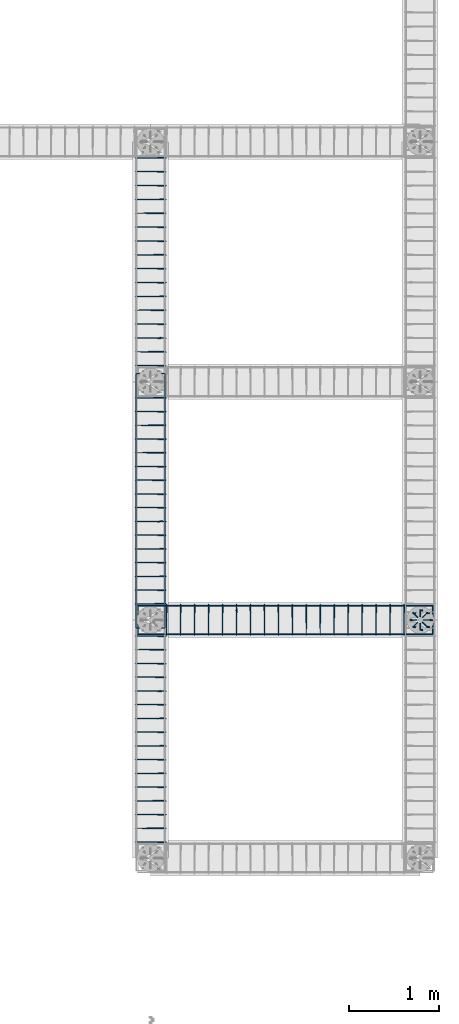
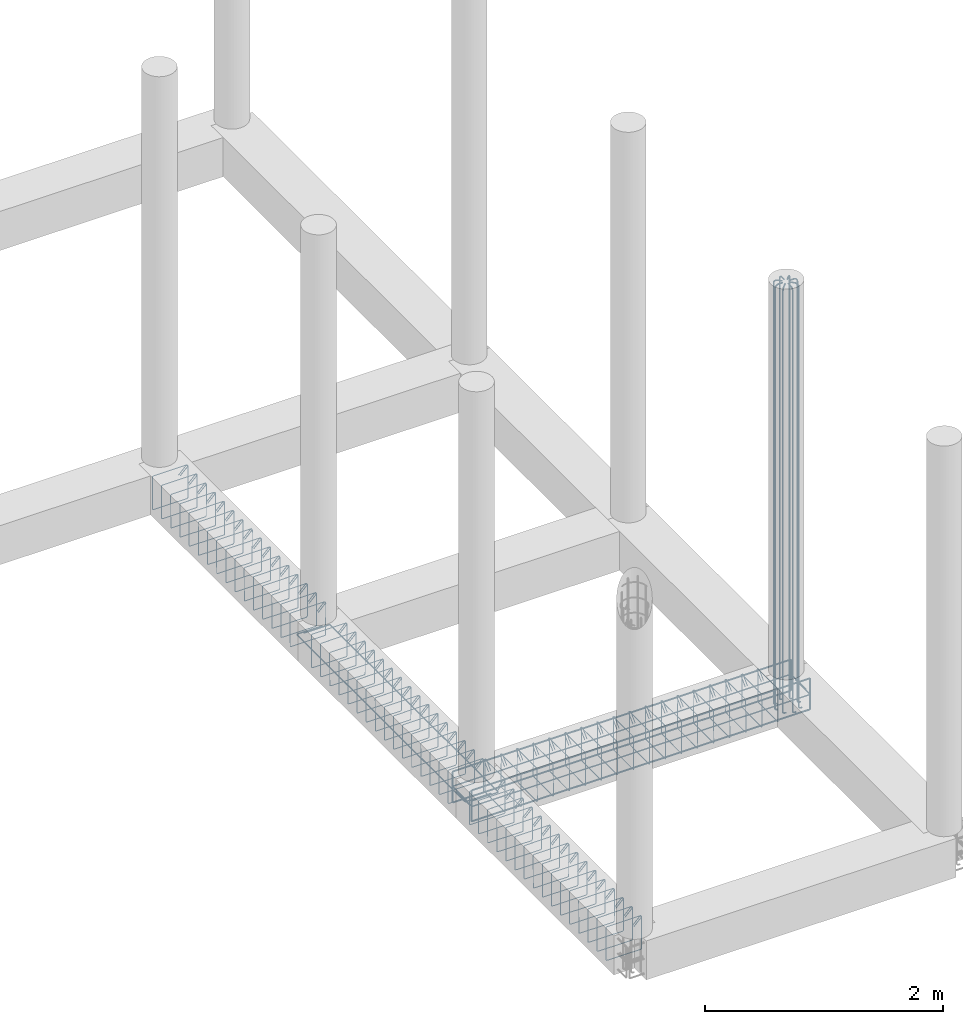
# One storey, part 6 of 20: 8 reinforcing bars.
"""IFC4 building model written with IfcOpenShell, lengths in metres."""

from ifc_helpers import new_model, entity, si_unit, origin_with_axes, place, context, project, spatial, source, transform, mapped, element, save


model = new_model("IFC4")

# Units and contexts
model_context = context("Model", 3, precision=1e-05, world=origin_with_axes())
ifc_project = project(units=[si_unit("LENGTHUNIT", "METRE"), si_unit("AREAUNIT", "SQUARE_METRE"), si_unit("VOLUMEUNIT", "CUBIC_METRE"), si_unit("MASSUNIT", "GRAM", prefix="KILO"), si_unit("TIMEUNIT", "SECOND"), si_unit("PLANEANGLEUNIT", "RADIAN"), si_unit("SOLIDANGLEUNIT", "STERADIAN"), si_unit("THERMODYNAMICTEMPERATUREUNIT", "DEGREE_CELSIUS")], contexts=[model_context])

# Site, building, storey
placement_1 = place(None, origin_with_axes())
site = spatial("IfcSite", under=ifc_project, at=placement_1, Name="Italia", CompositionType="ELEMENT")
building = spatial("IfcBuilding", under=site, at=placement_1, Name="Tettoia", CompositionType="ELEMENT")
storey = spatial("IfcBuildingStorey", under=building, at=placement_1, Name="Storey 0", CompositionType="ELEMENT", Elevation=0.0)

# Reinforcing bars
shared_shape_1 = source(origin_with_axes(), model_context, "Body", "AdvancedSweptSolid", [
    entity("IfcSweptDiskSolid", entity("IfcIndexedPolyCurve", entity("IfcCartesianPointList3D", [[11.211, 4.64605, -0.375], [11.1971, 4.64787, -0.375], [11.191, 4.64869, -0.373761], [11.1857, 4.64938, -0.370231], [11.1822, 4.64984, -0.364948], [11.181, 4.65, -0.358717], [11.181, 4.65, 0.5725]]), [entity("IfcLineIndex", [1, 2]), entity("IfcLineIndex", [2, 3]), entity("IfcLineIndex", [3, 4]), entity("IfcLineIndex", [4, 5]), entity("IfcLineIndex", [5, 6]), entity("IfcLineIndex", [6, 7])], False), 0.007),
])
placement_2 = place(placement_1, origin_with_axes())
reinforcing_bar_1_placement = place(placement_2, origin_with_axes())
element("IfcReinforcingBar", 1, at=reinforcing_bar_1_placement, inside=storey, BarLength=0.97063, CrossSectionArea=0.00015394, NominalDiameter=0.014, context=model_context, shape_type="MappedRepresentation", body=[
    mapped(shared_shape_1, transform((0.218, 0.0, 0.0), x_axis=(1.0, 0.0, 0.0), y_axis=(0.0, 1.0, 0.0), z_axis=(0.0, 0.0, 1.0), scale=1.0)),
    mapped(shared_shape_1, transform((0.0319262, -0.077075, 0.0), x_axis=(1.0, 0.0, 0.0), y_axis=(0.0, 1.0, 0.0), z_axis=(0.0, 0.0, 1.0), scale=1.0)),
    mapped(shared_shape_1, transform((0.109, -0.109, 0.0), x_axis=(1.0, 0.0, 0.0), y_axis=(0.0, 1.0, 0.0), z_axis=(0.0, 0.0, 1.0), scale=1.0)),
    mapped(shared_shape_1, transform((0.186116, -0.0771742, 0.0), x_axis=(1.0, 0.0, 0.0), y_axis=(0.0, 1.0, 0.0), z_axis=(0.0, 0.0, 1.0), scale=1.0)),
    mapped(shared_shape_1, transform((0.0, 0.0, 0.0), x_axis=(1.0, 0.0, 0.0), y_axis=(0.0, 1.0, 0.0), z_axis=(0.0, 0.0, 1.0), scale=1.0)),
    mapped(shared_shape_1, transform((0.0319672, 0.0769753, 0.0), x_axis=(1.0, 0.0, 0.0), y_axis=(0.0, 1.0, 0.0), z_axis=(0.0, 0.0, 1.0), scale=1.0)),
    mapped(shared_shape_1, transform((0.186116, 0.0769753, 0.0), x_axis=(1.0, 0.0, 0.0), y_axis=(0.0, 1.0, 0.0), z_axis=(0.0, 0.0, 1.0), scale=1.0)),
    mapped(shared_shape_1, transform((0.108843, 0.109378, 0.0), x_axis=(1.0, -3.3766e-05, 0.0), y_axis=(3.37809e-05, 1.0, 0.0), z_axis=(0.0, 0.0, 1.0), scale=1.0)),
])
shared_shape_2 = source(origin_with_axes(), model_context, "Body", "AdvancedSweptSolid", [
    entity("IfcSweptDiskSolid", entity("IfcIndexedPolyCurve", entity("IfcCartesianPointList3D", [[11.181, 4.65, 0.0], [11.181, 4.65, 3.94], [11.1837, 4.65, 3.95339], [11.1913, 4.65, 3.96475], [11.2026, 4.65, 3.97234], [11.216, 4.65, 3.975], [11.256, 4.65, 3.975]]), [entity("IfcLineIndex", [1, 2]), entity("IfcLineIndex", [2, 3]), entity("IfcLineIndex", [3, 4]), entity("IfcLineIndex", [4, 5]), entity("IfcLineIndex", [5, 6]), entity("IfcLineIndex", [6, 7])], False), 0.007),
])
reinforcing_bar_2_placement = place(placement_2, origin_with_axes())
element("IfcReinforcingBar", 2, at=reinforcing_bar_2_placement, inside=storey, BarLength=4.03463, CrossSectionArea=0.00015394, NominalDiameter=0.014, context=model_context, shape_type="MappedRepresentation", body=[
    mapped(shared_shape_2, transform((22.5613, -0.0452399, 0.0), x_axis=(-0.707104, 0.70711, 0.0), y_axis=(-0.70711, -0.707104, 0.0), z_axis=(0.0, 0.0, 1.0), scale=1.0)),
    mapped(shared_shape_2, transform((22.58, 9.3, 0.0), x_axis=(-1.0, 0.0, 0.0), y_axis=(0.0, -1.0, 0.0), z_axis=(0.0, 0.0, 1.0), scale=1.0)),
    mapped(shared_shape_2, transform((6.59481, -6.62128, 0.0), x_axis=(0.707107, 0.707107, 0.0), y_axis=(-0.707107, 0.707107, 0.0), z_axis=(0.0, 0.0, 1.0), scale=1.0)),
    mapped(shared_shape_2, transform((15.94, -6.64, 0.0), x_axis=(0.0, 1.0, 0.0), y_axis=(-1.0, 0.0, 0.0), z_axis=(0.0, 0.0, 1.0), scale=1.0)),
    mapped(shared_shape_2, transform((0.0187178, 9.34519, 0.0), x_axis=(0.707107, -0.707107, 0.0), y_axis=(0.707107, 0.707107, 0.0), z_axis=(0.0, 0.0, 1.0), scale=1.0)),
    mapped(shared_shape_2, transform((0.0, 0.0, 0.0), x_axis=(1.0, 0.0, 0.0), y_axis=(0.0, 1.0, 0.0), z_axis=(0.0, 0.0, 1.0), scale=1.0)),
    mapped(shared_shape_2, transform((15.9852, 15.9213, 0.0), x_axis=(-0.707107, -0.707107, 0.0), y_axis=(0.707107, -0.707107, 0.0), z_axis=(0.0, 0.0, 1.0), scale=1.0)),
    mapped(shared_shape_2, transform((6.64, 15.94, 0.0), x_axis=(0.0, -1.0, 0.0), y_axis=(1.0, 0.0, 0.0), z_axis=(0.0, 0.0, 1.0), scale=1.0)),
])
shared_shape_3 = source(origin_with_axes(), model_context, "Body", "AdvancedSweptSolid", [
    entity("IfcSweptDiskSolid", entity("IfcIndexedPolyCurve", entity("IfcCartesianPointList3D", [[8.465, 4.75029, -0.120711], [8.46556, 4.81807, -0.0529289], [8.4656, 4.821, -0.0458579], [8.46564, 4.821, -0.039], [8.46566, 4.82024, -0.0351732], [8.46568, 4.81807, -0.0319289], [8.46571, 4.81483, -0.0297612], [8.46573, 4.811, -0.029], [8.4676, 4.489, -0.029], [8.46762, 4.48517, -0.0297612], [8.46764, 4.48193, -0.0319289], [8.46766, 4.47976, -0.0351732], [8.46769, 4.479, -0.039], [8.46955, 4.479, -0.361], [8.46958, 4.47976, -0.364827], [8.4696, 4.48193, -0.368071], [8.46962, 4.48517, -0.370239], [8.46965, 4.489, -0.371], [8.47151, 4.811, -0.371], [8.47153, 4.81483, -0.370239], [8.47156, 4.81807, -0.368071], [8.47158, 4.82024, -0.364827], [8.4716, 4.821, -0.361], [8.47347, 4.821, -0.039], [8.47349, 4.82024, -0.0351732], [8.47351, 4.81807, -0.0319289], [8.47354, 4.81483, -0.0297612], [8.47356, 4.811, -0.029], [8.4736, 4.80414, -0.029], [8.47364, 4.79707, -0.0319289], [8.4742, 4.72929, -0.0997114]]), [entity("IfcLineIndex", [1, 2]), entity("IfcLineIndex", [2, 3]), entity("IfcLineIndex", [3, 4]), entity("IfcLineIndex", [4, 5]), entity("IfcLineIndex", [5, 6]), entity("IfcLineIndex", [6, 7]), entity("IfcLineIndex", [7, 8]), entity("IfcLineIndex", [8, 9]), entity("IfcLineIndex", [9, 10]), entity("IfcLineIndex", [10, 11]), entity("IfcLineIndex", [11, 12]), entity("IfcLineIndex", [12, 13]), entity("IfcLineIndex", [13, 14]), entity("IfcLineIndex", [14, 15]), entity("IfcLineIndex", [15, 16]), entity("IfcLineIndex", [16, 17]), entity("IfcLineIndex", [17, 18]), entity("IfcLineIndex", [18, 19]), entity("IfcLineIndex", [19, 20]), entity("IfcLineIndex", [20, 21]), entity("IfcLineIndex", [21, 22]), entity("IfcLineIndex", [22, 23]), entity("IfcLineIndex", [23, 24]), entity("IfcLineIndex", [24, 25]), entity("IfcLineIndex", [25, 26]), entity("IfcLineIndex", [26, 27]), entity("IfcLineIndex", [27, 28]), entity("IfcLineIndex", [28, 29]), entity("IfcLineIndex", [29, 30]), entity("IfcLineIndex", [30, 31])], False), 0.004),
])
reinforcing_bar_3_placement = place(placement_2, origin_with_axes())
element("IfcReinforcingBar", 3, at=reinforcing_bar_3_placement, inside=storey, BarLength=1.5868, CrossSectionArea=5.0265e-05, NominalDiameter=0.008, context=model_context, shape_type="MappedRepresentation", body=[
    mapped(shared_shape_3, transform((1.24329, 0.0, 0.0), x_axis=(1.0, 0.0, 0.0), y_axis=(0.0, 1.0, 0.0), z_axis=(0.0, 0.0, 1.0), scale=1.0)),
    mapped(shared_shape_3, transform((1.08788, 0.0, 0.0), x_axis=(1.0, 0.0, 0.0), y_axis=(0.0, 1.0, 0.0), z_axis=(0.0, 0.0, 1.0), scale=1.0)),
    mapped(shared_shape_3, transform((0.93247, 0.0, 0.0), x_axis=(1.0, 0.0, 0.0), y_axis=(0.0, 1.0, 0.0), z_axis=(0.0, 0.0, 1.0), scale=1.0)),
    mapped(shared_shape_3, transform((0.777059, 0.0, 0.0), x_axis=(1.0, 0.0, 0.0), y_axis=(0.0, 1.0, 0.0), z_axis=(0.0, 0.0, 1.0), scale=1.0)),
    mapped(shared_shape_3, transform((0.621647, 0.0, 0.0), x_axis=(1.0, 0.0, 0.0), y_axis=(0.0, 1.0, 0.0), z_axis=(0.0, 0.0, 1.0), scale=1.0)),
    mapped(shared_shape_3, transform((0.466235, 0.0, 0.0), x_axis=(1.0, 0.0, 0.0), y_axis=(0.0, 1.0, 0.0), z_axis=(0.0, 0.0, 1.0), scale=1.0)),
    mapped(shared_shape_3, transform((0.310823, 0.0, 0.0), x_axis=(1.0, 0.0, 0.0), y_axis=(0.0, 1.0, 0.0), z_axis=(0.0, 0.0, 1.0), scale=1.0)),
    mapped(shared_shape_3, transform((0.155412, 0.0, 0.0), x_axis=(1.0, 0.0, 0.0), y_axis=(0.0, 1.0, 0.0), z_axis=(0.0, 0.0, 1.0), scale=1.0)),
    mapped(shared_shape_3, transform((0.0, 0.0, 0.0), x_axis=(1.0, 0.0, 0.0), y_axis=(0.0, 1.0, 0.0), z_axis=(0.0, 0.0, 1.0), scale=1.0)),
    mapped(shared_shape_3, transform((2.642, 0.0, 0.0), x_axis=(1.0, 0.0, 0.0), y_axis=(0.0, 1.0, 0.0), z_axis=(0.0, 0.0, 1.0), scale=1.0)),
    mapped(shared_shape_3, transform((2.48659, 0.0, 0.0), x_axis=(1.0, 0.0, 0.0), y_axis=(0.0, 1.0, 0.0), z_axis=(0.0, 0.0, 1.0), scale=1.0)),
    mapped(shared_shape_3, transform((2.33118, 0.0, 0.0), x_axis=(1.0, 0.0, 0.0), y_axis=(0.0, 1.0, 0.0), z_axis=(0.0, 0.0, 1.0), scale=1.0)),
    mapped(shared_shape_3, transform((2.17576, 0.0, 0.0), x_axis=(1.0, 0.0, 0.0), y_axis=(0.0, 1.0, 0.0), z_axis=(0.0, 0.0, 1.0), scale=1.0)),
    mapped(shared_shape_3, transform((2.02035, 0.0, 0.0), x_axis=(1.0, 0.0, 0.0), y_axis=(0.0, 1.0, 0.0), z_axis=(0.0, 0.0, 1.0), scale=1.0)),
    mapped(shared_shape_3, transform((1.86494, 0.0, 0.0), x_axis=(1.0, 0.0, 0.0), y_axis=(0.0, 1.0, 0.0), z_axis=(0.0, 0.0, 1.0), scale=1.0)),
    mapped(shared_shape_3, transform((1.70953, 0.0, 0.0), x_axis=(1.0, 0.0, 0.0), y_axis=(0.0, 1.0, 0.0), z_axis=(0.0, 0.0, 1.0), scale=1.0)),
    mapped(shared_shape_3, transform((1.55412, 0.0, 0.0), x_axis=(1.0, 0.0, 0.0), y_axis=(0.0, 1.0, 0.0), z_axis=(0.0, 0.0, 1.0), scale=1.0)),
    mapped(shared_shape_3, transform((1.39871, 0.0, 0.0), x_axis=(1.0, 0.0, 0.0), y_axis=(0.0, 1.0, 0.0), z_axis=(0.0, 0.0, 1.0), scale=1.0)),
])
shared_shape_4 = source(origin_with_axes(), model_context, "Body", "AdvancedSweptSolid", [
    entity("IfcSweptDiskSolid", entity("IfcIndexedPolyCurve", entity("IfcCartesianPointList3D", [[8.15, 4.561, -0.194], [8.15, 4.801, -0.194], [8.15076, 4.80483, -0.194], [8.15293, 4.80807, -0.194], [8.15617, 4.81024, -0.194], [8.16, 4.811, -0.194], [11.42, 4.811, -0.194], [11.4238, 4.81024, -0.194], [11.4271, 4.80807, -0.194], [11.4292, 4.80483, -0.194], [11.43, 4.801, -0.194], [11.43, 4.561, -0.194]]), [entity("IfcLineIndex", [1, 2]), entity("IfcLineIndex", [2, 3]), entity("IfcLineIndex", [3, 4]), entity("IfcLineIndex", [4, 5]), entity("IfcLineIndex", [5, 6]), entity("IfcLineIndex", [6, 7]), entity("IfcLineIndex", [7, 8]), entity("IfcLineIndex", [8, 9]), entity("IfcLineIndex", [9, 10]), entity("IfcLineIndex", [10, 11]), entity("IfcLineIndex", [11, 12])], False), 0.006),
])
reinforcing_bar_4_placement = place(placement_2, origin_with_axes())
element("IfcReinforcingBar", 4, at=reinforcing_bar_4_placement, inside=storey, BarLength=3.77121, CrossSectionArea=0.0001131, NominalDiameter=0.012, context=model_context, shape_type="MappedRepresentation", body=[
    mapped(shared_shape_4, transform((0.0, 9.3, -0.4), x_axis=(1.0, 0.0, 0.0), y_axis=(0.0, -1.0, 0.0), z_axis=(0.0, 0.0, -1.0), scale=1.0)),
    mapped(shared_shape_4, transform((0.0, 0.0, 0.0), x_axis=(1.0, 0.0, 0.0), y_axis=(0.0, 1.0, 0.0), z_axis=(0.0, 0.0, 1.0), scale=1.0)),
])
shared_shape_5 = source(origin_with_axes(), model_context, "Body", "AdvancedSweptSolid", [
    entity("IfcSweptDiskSolid", entity("IfcIndexedPolyCurve", entity("IfcCartesianPointList3D", [[9.20727, 4.491, -0.359], [9.79, 4.491, -0.359], [11.29, 4.491, -0.359], [11.42, 4.491, -0.359], [11.4238, 4.491, -0.358239], [11.4271, 4.491, -0.356071], [11.4292, 4.491, -0.352827], [11.43, 4.491, -0.349], [11.43, 4.491, -0.109]]), [entity("IfcLineIndex", [1, 2]), entity("IfcLineIndex", [2, 3]), entity("IfcLineIndex", [3, 4]), entity("IfcLineIndex", [4, 5]), entity("IfcLineIndex", [5, 6]), entity("IfcLineIndex", [6, 7]), entity("IfcLineIndex", [7, 8]), entity("IfcLineIndex", [8, 9])], False), 0.008),
])
reinforcing_bar_5_placement = place(placement_2, origin_with_axes())
element("IfcReinforcingBar", 5, at=reinforcing_bar_5_placement, inside=storey, BarLength=2.46833, CrossSectionArea=0.00020106, NominalDiameter=0.016, context=model_context, shape_type="MappedRepresentation", body=[
    mapped(shared_shape_5, transform((0.0, 0.318, 0.0), x_axis=(1.0, 0.0, 0.0), y_axis=(0.0, 1.0, 0.0), z_axis=(0.0, 0.0, 1.0), scale=1.0)),
    mapped(shared_shape_5, transform((0.0, 0.0, 0.0), x_axis=(1.0, 0.0, 0.0), y_axis=(0.0, 1.0, 0.0), z_axis=(0.0, 0.0, 1.0), scale=1.0)),
    mapped(shared_shape_5, transform((0.0, 9.3, -0.4), x_axis=(1.0, 0.0, 0.0), y_axis=(0.0, -1.0, 0.0), z_axis=(0.0, 0.0, -1.0), scale=1.0)),
    mapped(shared_shape_5, transform((0.0, 8.982, -0.4), x_axis=(1.0, 0.0, 0.0), y_axis=(0.0, -1.0, 0.0), z_axis=(0.0, 0.0, -1.0), scale=1.0)),
])
shared_shape_6 = source(origin_with_axes(), model_context, "Body", "AdvancedSweptSolid", [
    entity("IfcSweptDiskSolid", entity("IfcIndexedPolyCurve", entity("IfcCartesianPointList3D", [[8.15, 4.491, -0.109], [8.15, 4.491, -0.349], [8.15076, 4.491, -0.352827], [8.15293, 4.491, -0.356071], [8.15617, 4.491, -0.358239], [8.16, 4.491, -0.359], [8.29, 4.491, -0.359], [9.79, 4.491, -0.359], [10.3727, 4.491, -0.359]]), [entity("IfcLineIndex", [1, 2]), entity("IfcLineIndex", [2, 3]), entity("IfcLineIndex", [3, 4]), entity("IfcLineIndex", [4, 5]), entity("IfcLineIndex", [5, 6]), entity("IfcLineIndex", [6, 7]), entity("IfcLineIndex", [7, 8]), entity("IfcLineIndex", [8, 9])], False), 0.008),
])
reinforcing_bar_6_placement = place(placement_2, origin_with_axes())
element("IfcReinforcingBar", 6, at=reinforcing_bar_6_placement, inside=storey, BarLength=2.46833, CrossSectionArea=0.00020106, NominalDiameter=0.016, context=model_context, shape_type="MappedRepresentation", body=[
    mapped(shared_shape_6, transform((0.0, 0.318, 0.0), x_axis=(1.0, 0.0, 0.0), y_axis=(0.0, 1.0, 0.0), z_axis=(0.0, 0.0, 1.0), scale=1.0)),
    mapped(shared_shape_6, transform((0.0, 0.0, 0.0), x_axis=(1.0, 0.0, 0.0), y_axis=(0.0, 1.0, 0.0), z_axis=(0.0, 0.0, 1.0), scale=1.0)),
    mapped(shared_shape_6, transform((0.0, 9.3, -0.4), x_axis=(1.0, 0.0, 0.0), y_axis=(0.0, -1.0, 0.0), z_axis=(0.0, 0.0, -1.0), scale=1.0)),
    mapped(shared_shape_6, transform((0.0, 8.982, -0.4), x_axis=(1.0, 0.0, 0.0), y_axis=(0.0, -1.0, 0.0), z_axis=(0.0, 0.0, -1.0), scale=1.0)),
])
shared_shape_7 = source(origin_with_axes(), model_context, "Body", "AdvancedSweptSolid", [
    entity("IfcSweptDiskSolid", entity("IfcIndexedPolyCurve", entity("IfcCartesianPointList3D", [[8.39029, 2.183, -0.120711], [8.45807, 2.18244, -0.0529289], [8.461, 2.1824, -0.0458579], [8.461, 2.18236, -0.039], [8.46024, 2.18234, -0.0351732], [8.45807, 2.18231, -0.0319289], [8.45483, 2.18229, -0.0297612], [8.451, 2.18227, -0.029], [8.129, 2.1804, -0.029], [8.12517, 2.18038, -0.0297612], [8.12193, 2.18036, -0.0319289], [8.11976, 2.18033, -0.0351732], [8.119, 2.18031, -0.039], [8.119, 2.17845, -0.361], [8.11976, 2.17842, -0.364827], [8.12193, 2.1784, -0.368071], [8.12517, 2.17838, -0.370239], [8.129, 2.17835, -0.371], [8.451, 2.17649, -0.371], [8.45483, 2.17647, -0.370239], [8.45807, 2.17644, -0.368071], [8.46024, 2.17642, -0.364827], [8.461, 2.1764, -0.361], [8.461, 2.17453, -0.039], [8.46024, 2.17451, -0.0351732], [8.45807, 2.17448, -0.0319289], [8.45483, 2.17446, -0.0297612], [8.451, 2.17444, -0.029], [8.44414, 2.1744, -0.029], [8.43707, 2.17436, -0.0319289], [8.36929, 2.1738, -0.0997114]]), [entity("IfcLineIndex", [1, 2]), entity("IfcLineIndex", [2, 3]), entity("IfcLineIndex", [3, 4]), entity("IfcLineIndex", [4, 5]), entity("IfcLineIndex", [5, 6]), entity("IfcLineIndex", [6, 7]), entity("IfcLineIndex", [7, 8]), entity("IfcLineIndex", [8, 9]), entity("IfcLineIndex", [9, 10]), entity("IfcLineIndex", [10, 11]), entity("IfcLineIndex", [11, 12]), entity("IfcLineIndex", [12, 13]), entity("IfcLineIndex", [13, 14]), entity("IfcLineIndex", [14, 15]), entity("IfcLineIndex", [15, 16]), entity("IfcLineIndex", [16, 17]), entity("IfcLineIndex", [17, 18]), entity("IfcLineIndex", [18, 19]), entity("IfcLineIndex", [19, 20]), entity("IfcLineIndex", [20, 21]), entity("IfcLineIndex", [21, 22]), entity("IfcLineIndex", [22, 23]), entity("IfcLineIndex", [23, 24]), entity("IfcLineIndex", [24, 25]), entity("IfcLineIndex", [25, 26]), entity("IfcLineIndex", [26, 27]), entity("IfcLineIndex", [27, 28]), entity("IfcLineIndex", [28, 29]), entity("IfcLineIndex", [29, 30]), entity("IfcLineIndex", [30, 31])], False), 0.004),
])
reinforcing_bar_7_placement = place(placement_2, origin_with_axes())
element("IfcReinforcingBar", 7, at=reinforcing_bar_7_placement, inside=storey, BarLength=1.5868, CrossSectionArea=5.0265e-05, NominalDiameter=0.008, context=model_context, shape_type="MappedRepresentation", body=[
    mapped(shared_shape_7, transform((-1.43051e-05, 5.30005, 0.0), x_axis=(1.0, 0.0, 0.0), y_axis=(0.0, 1.0, 0.0), z_axis=(0.0, 0.0, 1.0), scale=1.0)),
    mapped(shared_shape_7, transform((-1.43051e-05, 4.94205, 0.0), x_axis=(1.0, 0.0, 0.0), y_axis=(0.0, 1.0, 0.0), z_axis=(0.0, 0.0, 1.0), scale=1.0)),
    mapped(shared_shape_7, transform((-1.43051e-05, 4.78925, 0.0), x_axis=(1.0, 0.0, 0.0), y_axis=(0.0, 1.0, 0.0), z_axis=(0.0, 0.0, 1.0), scale=1.0)),
    mapped(shared_shape_7, transform((-1.43051e-05, 5.76245, 0.0), x_axis=(1.0, 0.0, 0.0), y_axis=(0.0, 1.0, 0.0), z_axis=(0.0, 0.0, 1.0), scale=1.0)),
    mapped(shared_shape_7, transform((-1.43051e-05, 5.60832, 0.0), x_axis=(1.0, 0.0, 0.0), y_axis=(0.0, 1.0, 0.0), z_axis=(0.0, 0.0, 1.0), scale=1.0)),
    mapped(shared_shape_7, transform((-1.43051e-05, 5.45418, 0.0), x_axis=(1.0, 0.0, 0.0), y_axis=(0.0, 1.0, 0.0), z_axis=(0.0, 0.0, 1.0), scale=1.0)),
    mapped(shared_shape_7, transform((-1.43051e-05, 4.17805, 0.0), x_axis=(1.0, 0.0, 0.0), y_axis=(0.0, 1.0, 0.0), z_axis=(0.0, 0.0, 1.0), scale=1.0)),
    mapped(shared_shape_7, transform((-1.43051e-05, 4.02525, 0.0), x_axis=(1.0, 0.0, 0.0), y_axis=(0.0, 1.0, 0.0), z_axis=(0.0, 0.0, 1.0), scale=1.0)),
    mapped(shared_shape_7, transform((-1.43051e-05, 3.87245, 0.0), x_axis=(1.0, 0.0, 0.0), y_axis=(0.0, 1.0, 0.0), z_axis=(0.0, 0.0, 1.0), scale=1.0)),
    mapped(shared_shape_7, transform((-1.43051e-05, 4.63645, 0.0), x_axis=(1.0, 0.0, 0.0), y_axis=(0.0, 1.0, 0.0), z_axis=(0.0, 0.0, 1.0), scale=1.0)),
    mapped(shared_shape_7, transform((-1.43051e-05, 4.48365, 0.0), x_axis=(1.0, 0.0, 0.0), y_axis=(0.0, 1.0, 0.0), z_axis=(0.0, 0.0, 1.0), scale=1.0)),
    mapped(shared_shape_7, transform((-1.43051e-05, 4.33085, 0.0), x_axis=(1.0, 0.0, 0.0), y_axis=(0.0, 1.0, 0.0), z_axis=(0.0, 0.0, 1.0), scale=1.0)),
    mapped(shared_shape_7, transform((0.000290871, 7.14847, -0.000276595), x_axis=(1.0, 0.000133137, 0.0), y_axis=(-0.000133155, 1.0, 0.000122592), z_axis=(0.0, -0.000122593, 1.0), scale=1.0)),
    mapped(shared_shape_7, transform((0.000290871, 6.99433, -0.000276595), x_axis=(1.0, 0.000133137, 0.0), y_axis=(-0.000133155, 1.0, 0.000122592), z_axis=(0.0, -0.000122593, 1.0), scale=1.0)),
    mapped(shared_shape_7, transform((0.000290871, 6.8402, -0.000276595), x_axis=(1.0, 0.000133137, 0.0), y_axis=(-0.000133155, 1.0, 0.000122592), z_axis=(0.0, -0.000122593, 1.0), scale=1.0)),
    mapped(shared_shape_7, transform((0.000290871, 7.61087, -0.000276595), x_axis=(1.0, 0.000133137, 0.0), y_axis=(-0.000133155, 1.0, 0.000122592), z_axis=(0.0, -0.000122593, 1.0), scale=1.0)),
    mapped(shared_shape_7, transform((0.000290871, 7.45673, -0.000276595), x_axis=(1.0, 0.000133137, 0.0), y_axis=(-0.000133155, 1.0, 0.000122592), z_axis=(0.0, -0.000122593, 1.0), scale=1.0)),
    mapped(shared_shape_7, transform((0.000290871, 7.3026, -0.000276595), x_axis=(1.0, 0.000133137, 0.0), y_axis=(-0.000133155, 1.0, 0.000122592), z_axis=(0.0, -0.000122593, 1.0), scale=1.0)),
    mapped(shared_shape_7, transform((0.000290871, 6.22367, -0.000276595), x_axis=(1.0, 0.000133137, 0.0), y_axis=(-0.000133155, 1.0, 0.000122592), z_axis=(0.0, -0.000122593, 1.0), scale=1.0)),
    mapped(shared_shape_7, transform((0.000290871, 6.06953, -0.000276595), x_axis=(1.0, 0.000133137, 0.0), y_axis=(-0.000133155, 1.0, 0.000122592), z_axis=(0.0, -0.000122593, 1.0), scale=1.0)),
    mapped(shared_shape_7, transform((0.000290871, 5.9154, -0.000276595), x_axis=(1.0, 0.000133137, 0.0), y_axis=(-0.000133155, 1.0, 0.000122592), z_axis=(0.0, -0.000122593, 1.0), scale=1.0)),
    mapped(shared_shape_7, transform((0.000290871, 6.68607, -0.000276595), x_axis=(1.0, 0.000133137, 0.0), y_axis=(-0.000133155, 1.0, 0.000122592), z_axis=(0.0, -0.000122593, 1.0), scale=1.0)),
    mapped(shared_shape_7, transform((0.000290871, 6.53193, -0.000276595), x_axis=(1.0, 0.000133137, 0.0), y_axis=(-0.000133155, 1.0, 0.000122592), z_axis=(0.0, -0.000122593, 1.0), scale=1.0)),
    mapped(shared_shape_7, transform((0.000290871, 6.3778, -0.000276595), x_axis=(1.0, 0.000133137, 0.0), y_axis=(-0.000133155, 1.0, 0.000122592), z_axis=(0.0, -0.000122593, 1.0), scale=1.0)),
    mapped(shared_shape_7, transform((0.0, 1.2224, 0.0), x_axis=(1.0, 0.0, 0.0), y_axis=(0.0, 1.0, 0.0), z_axis=(0.0, 0.0, 1.0), scale=1.0)),
    mapped(shared_shape_7, transform((0.0, 1.0696, 0.0), x_axis=(1.0, 0.0, 0.0), y_axis=(0.0, 1.0, 0.0), z_axis=(0.0, 0.0, 1.0), scale=1.0)),
    mapped(shared_shape_7, transform((0.0, 0.9168, 0.0), x_axis=(1.0, 0.0, 0.0), y_axis=(0.0, 1.0, 0.0), z_axis=(0.0, 0.0, 1.0), scale=1.0)),
    mapped(shared_shape_7, transform((0.0, 1.6808, 0.0), x_axis=(1.0, 0.0, 0.0), y_axis=(0.0, 1.0, 0.0), z_axis=(0.0, 0.0, 1.0), scale=1.0)),
    mapped(shared_shape_7, transform((0.0, 1.528, 0.0), x_axis=(1.0, 0.0, 0.0), y_axis=(0.0, 1.0, 0.0), z_axis=(0.0, 0.0, 1.0), scale=1.0)),
    mapped(shared_shape_7, transform((0.0, 1.3752, 0.0), x_axis=(1.0, 0.0, 0.0), y_axis=(0.0, 1.0, 0.0), z_axis=(0.0, 0.0, 1.0), scale=1.0)),
    mapped(shared_shape_7, transform((0.0, 0.3056, 0.0), x_axis=(1.0, 0.0, 0.0), y_axis=(0.0, 1.0, 0.0), z_axis=(0.0, 0.0, 1.0), scale=1.0)),
    mapped(shared_shape_7, transform((0.0, 0.1528, 0.0), x_axis=(1.0, 0.0, 0.0), y_axis=(0.0, 1.0, 0.0), z_axis=(0.0, 0.0, 1.0), scale=1.0)),
    mapped(shared_shape_7, transform((0.0, 0.0, 0.0), x_axis=(1.0, 0.0, 0.0), y_axis=(0.0, 1.0, 0.0), z_axis=(0.0, 0.0, 1.0), scale=1.0)),
    mapped(shared_shape_7, transform((0.0, 0.764, 0.0), x_axis=(1.0, 0.0, 0.0), y_axis=(0.0, 1.0, 0.0), z_axis=(0.0, 0.0, 1.0), scale=1.0)),
    mapped(shared_shape_7, transform((0.0, 0.6112, 0.0), x_axis=(1.0, 0.0, 0.0), y_axis=(0.0, 1.0, 0.0), z_axis=(0.0, 0.0, 1.0), scale=1.0)),
    mapped(shared_shape_7, transform((0.0, 0.4584, 0.0), x_axis=(1.0, 0.0, 0.0), y_axis=(0.0, 1.0, 0.0), z_axis=(0.0, 0.0, 1.0), scale=1.0)),
    mapped(shared_shape_7, transform((-1.43051e-05, 3.26125, 0.0), x_axis=(1.0, 0.0, 0.0), y_axis=(0.0, 1.0, 0.0), z_axis=(0.0, 0.0, 1.0), scale=1.0)),
    mapped(shared_shape_7, transform((-1.43051e-05, 3.10845, 0.0), x_axis=(1.0, 0.0, 0.0), y_axis=(0.0, 1.0, 0.0), z_axis=(0.0, 0.0, 1.0), scale=1.0)),
    mapped(shared_shape_7, transform((-1.43051e-05, 2.95565, 0.0), x_axis=(1.0, 0.0, 0.0), y_axis=(0.0, 1.0, 0.0), z_axis=(0.0, 0.0, 1.0), scale=1.0)),
    mapped(shared_shape_7, transform((-1.43051e-05, 3.71965, 0.0), x_axis=(1.0, 0.0, 0.0), y_axis=(0.0, 1.0, 0.0), z_axis=(0.0, 0.0, 1.0), scale=1.0)),
    mapped(shared_shape_7, transform((-1.43051e-05, 3.56685, 0.0), x_axis=(1.0, 0.0, 0.0), y_axis=(0.0, 1.0, 0.0), z_axis=(0.0, 0.0, 1.0), scale=1.0)),
    mapped(shared_shape_7, transform((-1.43051e-05, 3.41405, 0.0), x_axis=(1.0, 0.0, 0.0), y_axis=(0.0, 1.0, 0.0), z_axis=(0.0, 0.0, 1.0), scale=1.0)),
    mapped(shared_shape_7, transform((-1.43051e-05, 2.13925, 0.0), x_axis=(1.0, 0.0, 0.0), y_axis=(0.0, 1.0, 0.0), z_axis=(0.0, 0.0, 1.0), scale=1.0)),
    mapped(shared_shape_7, transform((-1.43051e-05, 1.98645, 0.0), x_axis=(1.0, 0.0, 0.0), y_axis=(0.0, 1.0, 0.0), z_axis=(0.0, 0.0, 1.0), scale=1.0)),
    mapped(shared_shape_7, transform((-1.43051e-05, 1.83365, 0.0), x_axis=(1.0, 0.0, 0.0), y_axis=(0.0, 1.0, 0.0), z_axis=(0.0, 0.0, 1.0), scale=1.0)),
    mapped(shared_shape_7, transform((-1.43051e-05, 2.80285, 0.0), x_axis=(1.0, 0.0, 0.0), y_axis=(0.0, 1.0, 0.0), z_axis=(0.0, 0.0, 1.0), scale=1.0)),
    mapped(shared_shape_7, transform((-1.43051e-05, 2.65005, 0.0), x_axis=(1.0, 0.0, 0.0), y_axis=(0.0, 1.0, 0.0), z_axis=(0.0, 0.0, 1.0), scale=1.0)),
    mapped(shared_shape_7, transform((-1.43051e-05, 2.29205, 0.0), x_axis=(1.0, 0.0, 0.0), y_axis=(0.0, 1.0, 0.0), z_axis=(0.0, 0.0, 1.0), scale=1.0)),
])
shared_shape_8 = source(origin_with_axes(), model_context, "Body", "AdvancedSweptSolid", [
    entity("IfcSweptDiskSolid", entity("IfcIndexedPolyCurve", entity("IfcCartesianPointList3D", [[8.379, 4.56, -0.194], [8.139, 4.56, -0.194], [8.13517, 4.56076, -0.194], [8.13193, 4.56293, -0.194], [8.12976, 4.56617, -0.194], [8.129, 4.57, -0.194], [8.129, 7.38, -0.194], [8.12976, 7.38383, -0.194], [8.13193, 7.38707, -0.194], [8.13517, 7.38924, -0.194], [8.139, 7.39, -0.194], [8.379, 7.39, -0.194]]), [entity("IfcLineIndex", [1, 2]), entity("IfcLineIndex", [2, 3]), entity("IfcLineIndex", [3, 4]), entity("IfcLineIndex", [4, 5]), entity("IfcLineIndex", [5, 6]), entity("IfcLineIndex", [6, 7]), entity("IfcLineIndex", [7, 8]), entity("IfcLineIndex", [8, 9]), entity("IfcLineIndex", [9, 10]), entity("IfcLineIndex", [10, 11]), entity("IfcLineIndex", [11, 12])], False), 0.006),
])
reinforcing_bar_8_placement = place(placement_2, origin_with_axes())
element("IfcReinforcingBar", 8, at=reinforcing_bar_8_placement, inside=storey, BarLength=3.32121, CrossSectionArea=0.0001131, NominalDiameter=0.012, context=model_context, shape_type="MappedRepresentation", body=[
    mapped(shared_shape_8, transform((16.58, 0.0, -0.4), x_axis=(-1.0, 0.0, 0.0), y_axis=(0.0, 1.0, 0.0), z_axis=(0.0, 0.0, -1.0), scale=1.0)),
    mapped(shared_shape_8, transform((0.0, 0.0, 0.0), x_axis=(1.0, 0.0, 0.0), y_axis=(0.0, 1.0, 0.0), z_axis=(0.0, 0.0, 1.0), scale=1.0)),
])

save(model, "model.ifc")
